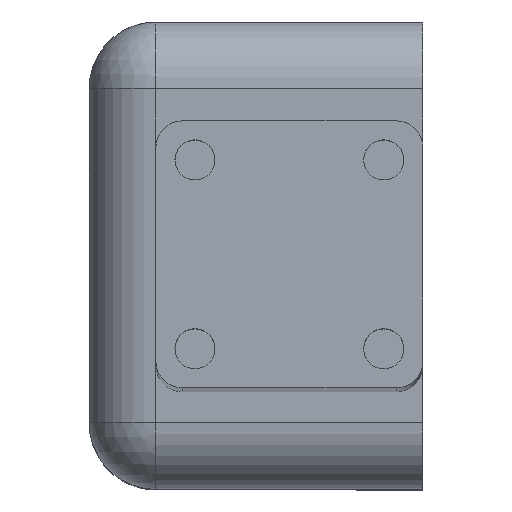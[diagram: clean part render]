
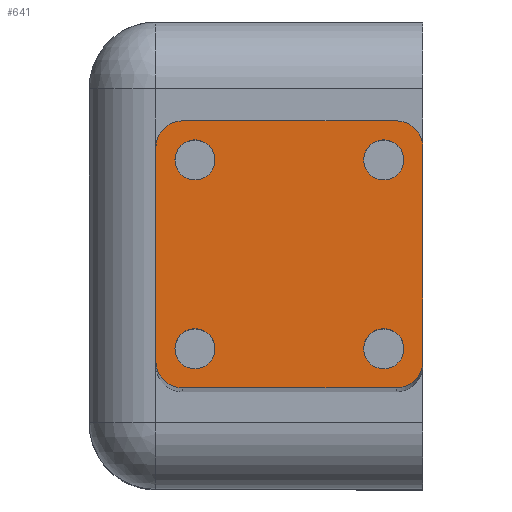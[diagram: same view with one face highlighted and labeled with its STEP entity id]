
A CAD part, top view. The second image highlights one B-rep face of the part: STEP entity #641.
In plain terms, the highlighted planar face has unit normal (0, 0, 1).
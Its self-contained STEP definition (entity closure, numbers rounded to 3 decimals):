
#6 = ORIENTED_EDGE ( 'NONE', *, *, #1412, .T. ) ;
#23 = ORIENTED_EDGE ( 'NONE', *, *, #342, .T. ) ;
#47 = CARTESIAN_POINT ( 'NONE',  ( 18., 2., 200. ) ) ;
#49 = VERTEX_POINT ( 'NONE', #1270 ) ;
#53 = VERTEX_POINT ( 'NONE', #1279 ) ;
#54 = VERTEX_POINT ( 'NONE', #626 ) ;
#62 = DIRECTION ( 'NONE',  ( 0., 0., 1. ) ) ;
#83 = DIRECTION ( 'NONE',  ( -1., 0., 0. ) ) ;
#90 = EDGE_LOOP ( 'NONE', ( #569, #831 ) ) ;
#96 = CIRCLE ( 'NONE', #648, 1.5 ) ;
#99 = CARTESIAN_POINT ( 'NONE',  ( 17.071, 2.929, 200. ) ) ;
#108 = CIRCLE ( 'NONE', #287, 2. ) ;
#113 = DIRECTION ( 'NONE',  ( 0., 0., 1. ) ) ;
#172 = ORIENTED_EDGE ( 'NONE', *, *, #408, .F. ) ;
#201 = FACE_BOUND ( 'NONE', #1185, .T. ) ;
#207 = VERTEX_POINT ( 'NONE', #1417 ) ;
#222 = EDGE_CURVE ( 'NONE', #1082, #851, #1043, .T. ) ;
#226 = ORIENTED_EDGE ( 'NONE', *, *, #1049, .F. ) ;
#227 = EDGE_LOOP ( 'NONE', ( #226, #615 ) ) ;
#228 = DIRECTION ( 'NONE',  ( 1., 0., 0. ) ) ;
#231 = ORIENTED_EDGE ( 'NONE', *, *, #730, .T. ) ;
#235 = AXIS2_PLACEMENT_3D ( 'NONE', #1415, #1074, #639 ) ;
#236 = AXIS2_PLACEMENT_3D ( 'NONE', #1333, #684, #904 ) ;
#259 = DIRECTION ( 'NONE',  ( -1., 0., 0. ) ) ;
#287 = AXIS2_PLACEMENT_3D ( 'NONE', #47, #378, #259 ) ;
#290 = VERTEX_POINT ( 'NONE', #938 ) ;
#291 = CARTESIAN_POINT ( 'NONE',  ( 2.929, 2.929, 200. ) ) ;
#304 = CIRCLE ( 'NONE', #1406, 1.5 ) ;
#310 = VERTEX_POINT ( 'NONE', #1255 ) ;
#327 = EDGE_CURVE ( 'NONE', #53, #735, #336, .T. ) ;
#336 = LINE ( 'NONE', #585, #1077 ) ;
#342 = EDGE_CURVE ( 'NONE', #54, #633, #1232, .T. ) ;
#351 = EDGE_CURVE ( 'NONE', #1242, #54, #558, .T. ) ;
#357 = CIRCLE ( 'NONE', #235, 2. ) ;
#358 = VECTOR ( 'NONE', #738, 1000. ) ;
#359 = CARTESIAN_POINT ( 'NONE',  ( 2.929, 17.071, 200. ) ) ;
#363 = DIRECTION ( 'NONE',  ( 0., -1., 0. ) ) ;
#366 = CARTESIAN_POINT ( 'NONE',  ( 0., 0., 200. ) ) ;
#369 = VECTOR ( 'NONE', #363, 1000. ) ;
#375 = DIRECTION ( 'NONE',  ( -1., 0., 0. ) ) ;
#378 = DIRECTION ( 'NONE',  ( 0., 0., 1. ) ) ;
#394 = EDGE_CURVE ( 'NONE', #870, #290, #680, .T. ) ;
#408 = EDGE_CURVE ( 'NONE', #290, #870, #96, .T. ) ;
#426 = DIRECTION ( 'NONE',  ( 1., 0., 0. ) ) ;
#455 = ORIENTED_EDGE ( 'NONE', *, *, #327, .T. ) ;
#456 = DIRECTION ( 'NONE',  ( 1., 0., 0. ) ) ;
#461 = ORIENTED_EDGE ( 'NONE', *, *, #394, .F. ) ;
#467 = FACE_BOUND ( 'NONE', #90, .T. ) ;
#468 = CIRCLE ( 'NONE', #1033, 1.5 ) ;
#479 = EDGE_CURVE ( 'NONE', #735, #1257, #357, .T. ) ;
#481 = CIRCLE ( 'NONE', #997, 1.5 ) ;
#482 = LINE ( 'NONE', #366, #1216 ) ;
#499 = AXIS2_PLACEMENT_3D ( 'NONE', #578, #908, #810 ) ;
#530 = DIRECTION ( 'NONE',  ( 0., 0., 1. ) ) ;
#539 = DIRECTION ( 'NONE',  ( 0., 0., 1. ) ) ;
#554 = DIRECTION ( 'NONE',  ( 1., 0., 0. ) ) ;
#558 = CIRCLE ( 'NONE', #499, 2. ) ;
#564 = CARTESIAN_POINT ( 'NONE',  ( 18., 20., 200. ) ) ;
#569 = ORIENTED_EDGE ( 'NONE', *, *, #1184, .F. ) ;
#575 = AXIS2_PLACEMENT_3D ( 'NONE', #99, #530, #426 ) ;
#578 = CARTESIAN_POINT ( 'NONE',  ( 2., 18., 200. ) ) ;
#585 = CARTESIAN_POINT ( 'NONE',  ( 20., 0., 200. ) ) ;
#587 = ORIENTED_EDGE ( 'NONE', *, *, #351, .T. ) ;
#611 = ORIENTED_EDGE ( 'NONE', *, *, #1096, .T. ) ;
#613 = PLANE ( 'NONE',  #1056 ) ;
#615 = ORIENTED_EDGE ( 'NONE', *, *, #1208, .F. ) ;
#626 = CARTESIAN_POINT ( 'NONE',  ( 0., 18., 200. ) ) ;
#627 = CARTESIAN_POINT ( 'NONE',  ( 0., 20., 200. ) ) ;
#633 = VERTEX_POINT ( 'NONE', #772 ) ;
#639 = DIRECTION ( 'NONE',  ( -1., 0., 0. ) ) ;
#641 = ADVANCED_FACE ( 'NONE', ( #757, #467, #915, #201, #1357 ), #613, .F. ) ;
#648 = AXIS2_PLACEMENT_3D ( 'NONE', #1089, #113, #228 ) ;
#680 = CIRCLE ( 'NONE', #575, 1.5 ) ;
#684 = DIRECTION ( 'NONE',  ( 0., 0., 1. ) ) ;
#716 = ORIENTED_EDGE ( 'NONE', *, *, #948, .T. ) ;
#724 = DIRECTION ( 'NONE',  ( 0., 0., 1. ) ) ;
#730 = EDGE_CURVE ( 'NONE', #310, #53, #108, .T. ) ;
#733 = ORIENTED_EDGE ( 'NONE', *, *, #807, .F. ) ;
#735 = VERTEX_POINT ( 'NONE', #1244 ) ;
#738 = DIRECTION ( 'NONE',  ( -1., 0., 0. ) ) ;
#757 = FACE_BOUND ( 'NONE', #227, .T. ) ;
#772 = CARTESIAN_POINT ( 'NONE',  ( 0., 2., 200. ) ) ;
#774 = DIRECTION ( 'NONE',  ( 0., 0., -1. ) ) ;
#781 = LINE ( 'NONE', #627, #358 ) ;
#784 = AXIS2_PLACEMENT_3D ( 'NONE', #949, #724, #83 ) ;
#796 = CARTESIAN_POINT ( 'NONE',  ( 18.571, 17.071, 200. ) ) ;
#804 = DIRECTION ( 'NONE',  ( 1., 0., 0. ) ) ;
#807 = EDGE_CURVE ( 'NONE', #207, #1289, #1392, .T. ) ;
#808 = VERTEX_POINT ( 'NONE', #1055 ) ;
#810 = DIRECTION ( 'NONE',  ( -1., 0., 0. ) ) ;
#826 = CIRCLE ( 'NONE', #236, 1.5 ) ;
#831 = ORIENTED_EDGE ( 'NONE', *, *, #222, .F. ) ;
#834 = CARTESIAN_POINT ( 'NONE',  ( 18.571, 2.929, 200. ) ) ;
#851 = VERTEX_POINT ( 'NONE', #1377 ) ;
#854 = ORIENTED_EDGE ( 'NONE', *, *, #479, .T. ) ;
#870 = VERTEX_POINT ( 'NONE', #834 ) ;
#879 = CIRCLE ( 'NONE', #784, 2. ) ;
#883 = CARTESIAN_POINT ( 'NONE',  ( 0., 0., 200. ) ) ;
#902 = CARTESIAN_POINT ( 'NONE',  ( 4.429, 2.929, 200. ) ) ;
#904 = DIRECTION ( 'NONE',  ( 1., 0., 0. ) ) ;
#908 = DIRECTION ( 'NONE',  ( 0., 0., 1. ) ) ;
#913 = CARTESIAN_POINT ( 'NONE',  ( 17.071, 17.071, 200. ) ) ;
#915 = FACE_BOUND ( 'NONE', #1416, .T. ) ;
#938 = CARTESIAN_POINT ( 'NONE',  ( 15.571, 2.929, 200. ) ) ;
#944 = AXIS2_PLACEMENT_3D ( 'NONE', #291, #1162, #1246 ) ;
#948 = EDGE_CURVE ( 'NONE', #1257, #1242, #781, .T. ) ;
#949 = CARTESIAN_POINT ( 'NONE',  ( 2., 2., 200. ) ) ;
#993 = CARTESIAN_POINT ( 'NONE',  ( 1.429, 17.071, 200. ) ) ;
#997 = AXIS2_PLACEMENT_3D ( 'NONE', #1059, #62, #1390 ) ;
#1003 = CARTESIAN_POINT ( 'NONE',  ( 0., 0., 200. ) ) ;
#1033 = AXIS2_PLACEMENT_3D ( 'NONE', #359, #1114, #456 ) ;
#1039 = AXIS2_PLACEMENT_3D ( 'NONE', #1195, #539, #554 ) ;
#1043 = CIRCLE ( 'NONE', #1039, 1.5 ) ;
#1049 = EDGE_CURVE ( 'NONE', #1094, #49, #826, .T. ) ;
#1055 = CARTESIAN_POINT ( 'NONE',  ( 2., 0., 200. ) ) ;
#1056 = AXIS2_PLACEMENT_3D ( 'NONE', #883, #774, #375 ) ;
#1059 = CARTESIAN_POINT ( 'NONE',  ( 2.929, 2.929, 200. ) ) ;
#1074 = DIRECTION ( 'NONE',  ( 0., 0., 1. ) ) ;
#1077 = VECTOR ( 'NONE', #1221, 1000. ) ;
#1082 = VERTEX_POINT ( 'NONE', #993 ) ;
#1089 = CARTESIAN_POINT ( 'NONE',  ( 17.071, 2.929, 200. ) ) ;
#1091 = EDGE_LOOP ( 'NONE', ( #23, #6, #611, #231, #455, #854, #716, #587 ) ) ;
#1094 = VERTEX_POINT ( 'NONE', #796 ) ;
#1096 = EDGE_CURVE ( 'NONE', #808, #310, #482, .T. ) ;
#1102 = CARTESIAN_POINT ( 'NONE',  ( 2., 20., 200. ) ) ;
#1114 = DIRECTION ( 'NONE',  ( 0., 0., 1. ) ) ;
#1162 = DIRECTION ( 'NONE',  ( 0., 0., 1. ) ) ;
#1184 = EDGE_CURVE ( 'NONE', #851, #1082, #468, .T. ) ;
#1185 = EDGE_LOOP ( 'NONE', ( #461, #172 ) ) ;
#1195 = CARTESIAN_POINT ( 'NONE',  ( 2.929, 17.071, 200. ) ) ;
#1208 = EDGE_CURVE ( 'NONE', #49, #1094, #304, .T. ) ;
#1211 = ORIENTED_EDGE ( 'NONE', *, *, #1348, .F. ) ;
#1216 = VECTOR ( 'NONE', #1343, 1000. ) ;
#1221 = DIRECTION ( 'NONE',  ( 0., 1., 0. ) ) ;
#1232 = LINE ( 'NONE', #1003, #369 ) ;
#1233 = DIRECTION ( 'NONE',  ( 0., 0., 1. ) ) ;
#1242 = VERTEX_POINT ( 'NONE', #1102 ) ;
#1244 = CARTESIAN_POINT ( 'NONE',  ( 20., 18., 200. ) ) ;
#1246 = DIRECTION ( 'NONE',  ( 1., 0., 0. ) ) ;
#1255 = CARTESIAN_POINT ( 'NONE',  ( 18., 0., 200. ) ) ;
#1257 = VERTEX_POINT ( 'NONE', #564 ) ;
#1270 = CARTESIAN_POINT ( 'NONE',  ( 15.571, 17.071, 200. ) ) ;
#1279 = CARTESIAN_POINT ( 'NONE',  ( 20., 2., 200. ) ) ;
#1289 = VERTEX_POINT ( 'NONE', #902 ) ;
#1333 = CARTESIAN_POINT ( 'NONE',  ( 17.071, 17.071, 200. ) ) ;
#1343 = DIRECTION ( 'NONE',  ( 1., 0., 0. ) ) ;
#1348 = EDGE_CURVE ( 'NONE', #1289, #207, #481, .T. ) ;
#1357 = FACE_OUTER_BOUND ( 'NONE', #1091, .T. ) ;
#1377 = CARTESIAN_POINT ( 'NONE',  ( 4.429, 17.071, 200. ) ) ;
#1390 = DIRECTION ( 'NONE',  ( 1., 0., 0. ) ) ;
#1392 = CIRCLE ( 'NONE', #944, 1.5 ) ;
#1406 = AXIS2_PLACEMENT_3D ( 'NONE', #913, #1233, #804 ) ;
#1412 = EDGE_CURVE ( 'NONE', #633, #808, #879, .T. ) ;
#1415 = CARTESIAN_POINT ( 'NONE',  ( 18., 18., 200. ) ) ;
#1416 = EDGE_LOOP ( 'NONE', ( #1211, #733 ) ) ;
#1417 = CARTESIAN_POINT ( 'NONE',  ( 1.429, 2.929, 200. ) ) ;
